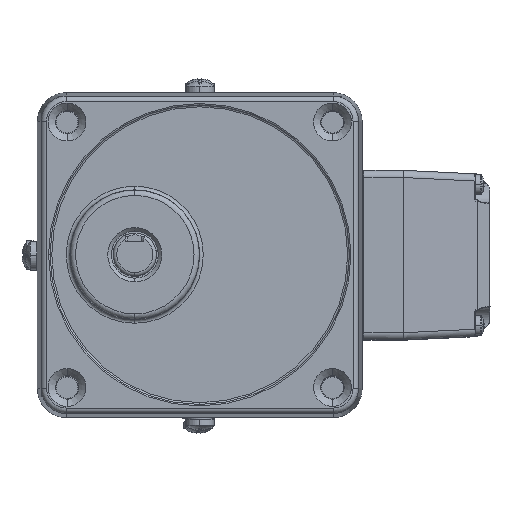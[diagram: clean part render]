
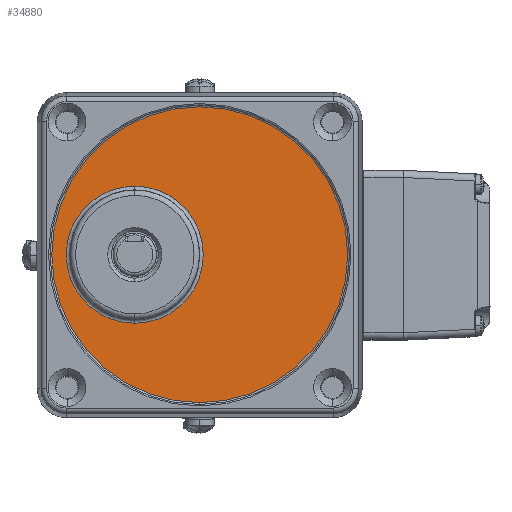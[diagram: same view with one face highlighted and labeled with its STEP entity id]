
A CAD part, top view. The second image highlights one B-rep face of the part: STEP entity #34880.
In plain terms, the highlighted planar face has unit normal (0, 0, 1) as drawn and (1, 0, 0) by its records, which use the part's own axes.
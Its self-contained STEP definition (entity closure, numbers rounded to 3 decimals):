
#1398 = FACE_OUTER_BOUND ( 'NONE', #57771, .T. ) ;
#13433 = CIRCLE ( 'NONE', #41163, 18.983 ) ;
#14455 = EDGE_CURVE ( 'NONE', #29788, #25944, #25449, .T. ) ;
#14778 = AXIS2_PLACEMENT_3D ( 'NONE', #48301, #23881, #54052 ) ;
#15837 = FACE_BOUND ( 'NONE', #30092, .T. ) ;
#17224 = AXIS2_PLACEMENT_3D ( 'NONE', #42482, #62066, #18020 ) ;
#17305 = EDGE_CURVE ( 'NONE', #32742, #24885, #13433, .T. ) ;
#18020 = DIRECTION ( 'NONE',  ( 0., 1., 0. ) ) ;
#18650 = CARTESIAN_POINT ( 'NONE',  ( 2697.792, -734.166, 0. ) ) ;
#19113 = AXIS2_PLACEMENT_3D ( 'NONE', #59865, #40605, #60183 ) ;
#19135 = DIRECTION ( 'NONE',  ( 0., -1., 0. ) ) ;
#20175 = DIRECTION ( 'NONE',  ( 0., 1., 0. ) ) ;
#20682 = PLANE ( 'NONE',  #19113 ) ;
#22992 = AXIS2_PLACEMENT_3D ( 'NONE', #52566, #63186, #19135 ) ;
#23436 = EDGE_CURVE ( 'NONE', #25944, #29788, #50706, .T. ) ;
#23881 = DIRECTION ( 'NONE',  ( 1., 0., 0. ) ) ;
#24694 = CARTESIAN_POINT ( 'NONE',  ( 2697.792, -756.175, 18. ) ) ;
#24885 = VERTEX_POINT ( 'NONE', #28087 ) ;
#25449 = CIRCLE ( 'NONE', #17224, 40.991 ) ;
#25944 = VERTEX_POINT ( 'NONE', #54252 ) ;
#25976 = ORIENTED_EDGE ( 'NONE', *, *, #14455, .F. ) ;
#28087 = CARTESIAN_POINT ( 'NONE',  ( 2697.792, -794.14, 18. ) ) ;
#29788 = VERTEX_POINT ( 'NONE', #18650 ) ;
#30092 = EDGE_LOOP ( 'NONE', ( #58893, #56447 ) ) ;
#32742 = VERTEX_POINT ( 'NONE', #24694 ) ;
#34880 = ADVANCED_FACE ( 'NONE', ( #1398, #15837 ), #20682, .T. ) ;
#40605 = DIRECTION ( 'NONE',  ( 1., 0., 0. ) ) ;
#41163 = AXIS2_PLACEMENT_3D ( 'NONE', #59683, #45869, #20175 ) ;
#42482 = CARTESIAN_POINT ( 'NONE',  ( 2697.792, -775.157, 0. ) ) ;
#45869 = DIRECTION ( 'NONE',  ( 1., 0., 0. ) ) ;
#48301 = CARTESIAN_POINT ( 'NONE',  ( 2697.792, -775.157, 18. ) ) ;
#50706 = CIRCLE ( 'NONE', #22992, 40.991 ) ;
#52218 = ORIENTED_EDGE ( 'NONE', *, *, #23436, .F. ) ;
#52566 = CARTESIAN_POINT ( 'NONE',  ( 2697.792, -775.157, 0. ) ) ;
#53375 = EDGE_CURVE ( 'NONE', #24885, #32742, #56837, .T. ) ;
#54052 = DIRECTION ( 'NONE',  ( 0., -1., 0. ) ) ;
#54252 = CARTESIAN_POINT ( 'NONE',  ( 2697.792, -816.149, 0. ) ) ;
#56447 = ORIENTED_EDGE ( 'NONE', *, *, #17305, .F. ) ;
#56837 = CIRCLE ( 'NONE', #14778, 18.983 ) ;
#57771 = EDGE_LOOP ( 'NONE', ( #52218, #25976 ) ) ;
#58893 = ORIENTED_EDGE ( 'NONE', *, *, #53375, .F. ) ;
#59683 = CARTESIAN_POINT ( 'NONE',  ( 2697.792, -775.157, 18. ) ) ;
#59865 = CARTESIAN_POINT ( 'NONE',  ( 2697.792, -775.157, 0. ) ) ;
#60183 = DIRECTION ( 'NONE',  ( 0., 1., 0. ) ) ;
#62066 = DIRECTION ( 'NONE',  ( -1., 0., 0. ) ) ;
#63186 = DIRECTION ( 'NONE',  ( -1., 0., 0. ) ) ;
